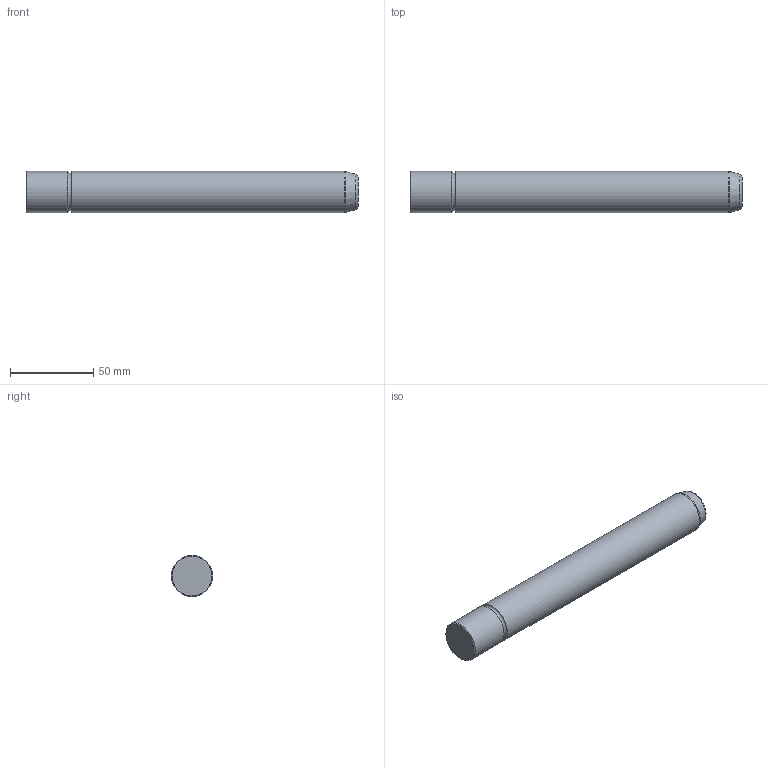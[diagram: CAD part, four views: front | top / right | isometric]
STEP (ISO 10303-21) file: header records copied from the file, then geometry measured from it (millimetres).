
FILE_DESCRIPTION(/* description */ ('Impex Ready, www.impex-ready.pl'),/* implementation_level */ '2;1');
FILE_NAME(/* name */ 'C:\Users\VIKKY\Nextcloud\SM\projekt 10 - części na stronę internetową\Pliki_3D_new\268 Słupy CS\268 CS_STEP\CS25200.ipt.step',/* time_stamp */ '2021-12-20T13:57:49+01:00',/* author */ ('SM'),/* organization */ (''),/* preprocessor_version */ 'ST-DEVELOPER v18.1',/* originating_system */ 'Autodesk Inventor 2021',/* authorisation */ '');
FILE_SCHEMA (('AUTOMOTIVE_DESIGN { 1 0 10303 214 3 1 1 }'));
Length unit declared in the file: millimetre
Products named in the file (1): CS25200
Bounding box: 200 x 25 x 25 mm (x, y, z)
Volume: 97286.4 mm3; surface area: 16546.1 mm2
Topology: 1 solids, 1 shells, 9 faces, 20 edges, 13 vertices
Faces by surface type: torus 3, cone 2, cylinder 2, plane 2
Full cylindrical faces by diameter (mm): 25 x2
Entity records: 339 total; most frequent: DIRECTION 56, CARTESIAN_POINT 43, ORIENTED_EDGE 40, AXIS2_PLACEMENT_3D 26, EDGE_CURVE 20, CIRCLE 16, VERTEX_POINT 13, STYLED_ITEM 10
